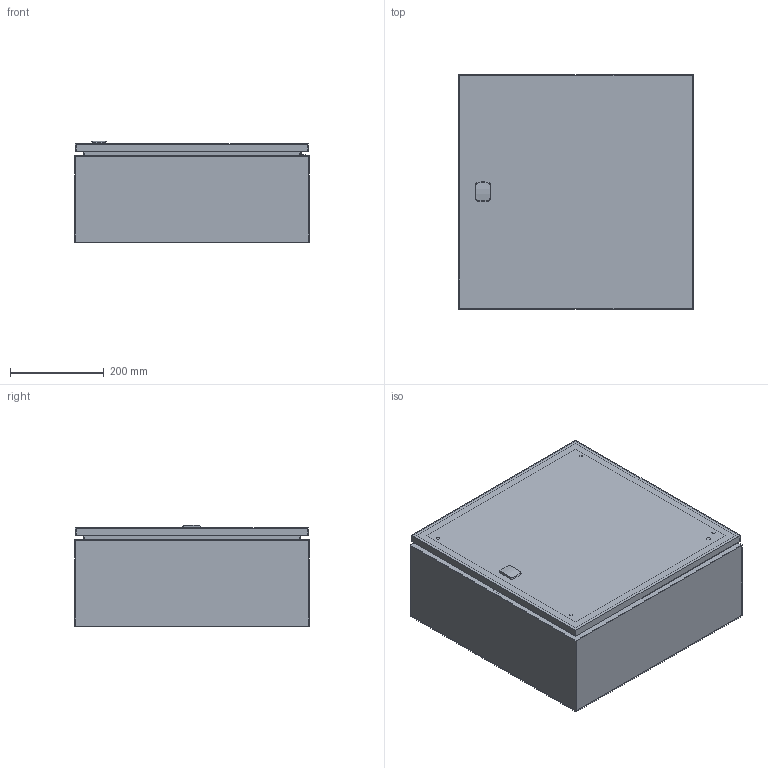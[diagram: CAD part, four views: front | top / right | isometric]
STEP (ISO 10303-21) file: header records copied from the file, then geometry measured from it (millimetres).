
FILE_DESCRIPTION(/* description */ ('STEP AP203'),/* implementation_level */ '2;1');
FILE_NAME(/* name */ 'ASR0505021(0)',/* time_stamp */ '2024-03-08T10:33:19+01:00',/* author */ ('License CC BY-ND 4.0'),/* organization */ ('CADENAS'),/* preprocessor_version */ 'ST-DEVELOPER v19.3',/* originating_system */ 'PARTsolutions',/* authorisation */ ' ');
FILE_SCHEMA (('CONFIG_CONTROL_DESIGN'));
Length unit declared in the file: millimetre
Products named in the file (6): ASR0505021(0); ASR0505021(0)_P1; MMSH06SS(0)_right; ADPS05050(0); ALLS503_304(0,0,26.8); AMP05050_MPL(0)
Assembly tree (6 placements, depth 2):
  ASR0505021(0)
    ASR0505021(0)_P1
    MMSH06SS(0)_right  x2
    ADPS05050(0)
    ALLS503_304(0,0,26.8)
    AMP05050_MPL(0)
Bounding box: 500 x 500 x 216.2 mm (x, y, z)
Volume: 2096949.4 mm3; surface area: 2405741.9 mm2
Topology: 6 solids, 6 shells, 294 faces, 681 edges, 443 vertices
Faces by surface type: plane 200, cylinder 78, cone 15, torus 1
Full cylindrical faces by diameter (mm): 4.9 x2, 6 x4, 7 x4, 7.22 x1, 7.25 x5, 8 x6, 9 x3, 9.08 x5, 16 x6, 18 x1, 27 x1
Entity records: 7945 total; most frequent: CARTESIAN_POINT 1314, DIRECTION 1265, ORIENTED_EDGE 1136, EDGE_CURVE 568, AXIS2_PLACEMENT_3D 438, VERTEX_POINT 397, LINE 389, VECTOR 389
